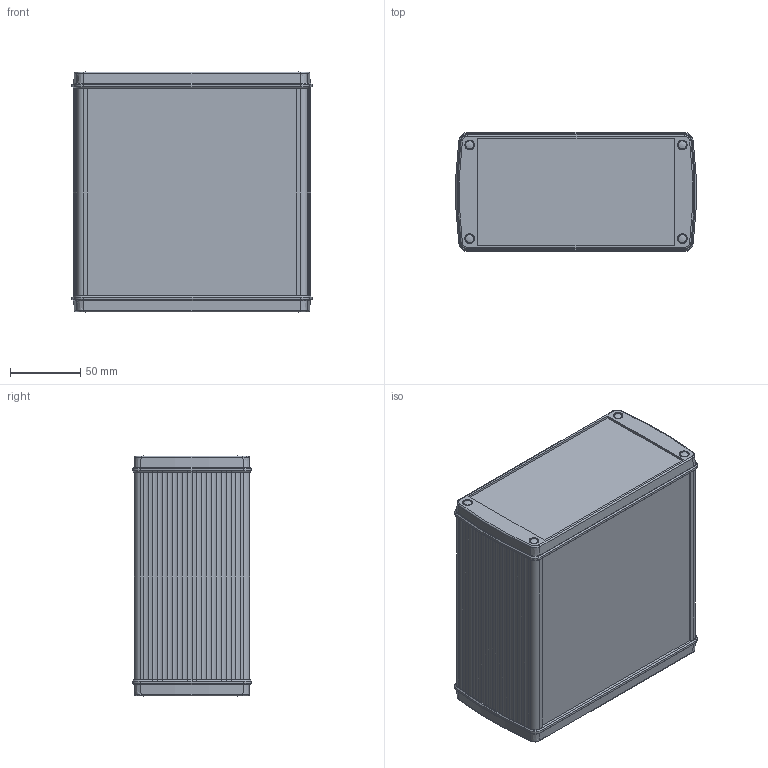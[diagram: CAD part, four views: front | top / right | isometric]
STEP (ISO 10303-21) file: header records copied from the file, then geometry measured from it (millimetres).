
FILE_DESCRIPTION(/* description */ (''),/* implementation_level */ '2;1');
FILE_NAME(/* name */ 'F:\User\Daten\Internetdaten-Entwicklung\Handelsmarketing\Zusammenbauzeichnungen_Conrad\Alubos\STEP\84686150.H_ABPH 1680-150.stp',/* time_stamp */ '2016-05-30T11:43:41+02:00',/* author */ ('arempel'),/* organization */ (''),/* preprocessor_version */ 'ST-DEVELOPER v16.1',/* originating_system */ 'Autodesk Inventor 2016',/* authorisation */ '');
FILE_SCHEMA (('AUTOMOTIVE_DESIGN { 1 0 10303 214 3 1 1 }'));
Length unit declared in the file: millimetre
Products named in the file (3): 84686150_ABPH 1680-0150; 84168100_ABD 1680; 84686150.H_ABPH 1680-150
Assembly tree (3 placements, depth 2):
  84686150.H_ABPH 1680-150
    84686150_ABPH 1680-0150
    84168100_ABD 1680  x2
Bounding box: 171.1 x 84.6 x 171.1 mm (x, y, z)
Volume: 411758.4 mm3; surface area: 305100.8 mm2
Topology: 22 solids, 22 shells, 2372 faces, 6086 edges, 3836 vertices
Faces by surface type: plane 1152, cylinder 744, bspline 140, sphere 136, cone 128, torus 72
Full cylindrical faces by diameter (mm): 3 x8, 3.4 x8, 4.6 x4, 5.3 x8, 5.6 x8, 6 x8, 6.4 x8, 7 x8
Entity records: 48027 total; most frequent: CARTESIAN_POINT 11504, ORIENTED_EDGE 7576, DIRECTION 7482, EDGE_CURVE 3788, LINE 2590, VECTOR 2590, VERTEX_POINT 2484, AXIS2_PLACEMENT_3D 2446
